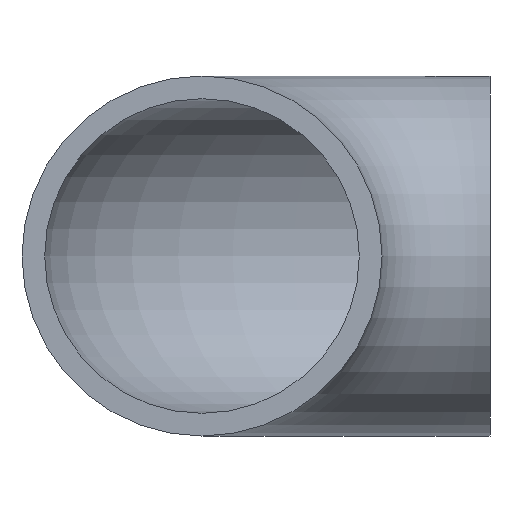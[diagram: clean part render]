
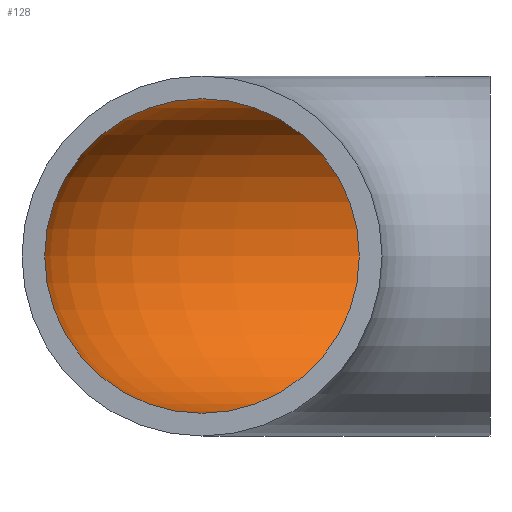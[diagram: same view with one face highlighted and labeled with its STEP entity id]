
A CAD part, front view. The second image highlights one B-rep face of the part: STEP entity #128.
In plain terms, the highlighted toroidal (fillet/blend) face has major radius 40 mm and minor radius 21.85 mm.
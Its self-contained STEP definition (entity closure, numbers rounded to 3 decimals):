
#12=TOROIDAL_SURFACE($,#146,40.,21.85);
#23=FACE_BOUND($,#58,.T.);
#36=CIRCLE($,#147,21.85);
#37=CIRCLE($,#148,21.85);
#45=FACE_OUTER_BOUND($,#57,.T.);
#57=EDGE_LOOP($,(#98));
#58=EDGE_LOOP($,(#99));
#75=VERTEX_POINT($,#257);
#76=VERTEX_POINT($,#259);
#85=EDGE_CURVE($,#75,#75,#36,.T.);
#86=EDGE_CURVE($,#76,#76,#37,.T.);
#98=ORIENTED_EDGE($,*,*,#85,.T.);
#99=ORIENTED_EDGE($,*,*,#86,.F.);
#128=ADVANCED_FACE($,(#45,#23),#12,.F.);
#146=AXIS2_PLACEMENT_3D($,#256,#177,#178);
#147=AXIS2_PLACEMENT_3D($,#258,#179,#180);
#148=AXIS2_PLACEMENT_3D($,#260,#181,#182);
#177=DIRECTION('center_axis',(0.,0.,-1.));
#178=DIRECTION('ref_axis',(-1.,0.,0.));
#179=DIRECTION('center_axis',(0.,-1.,0.));
#180=DIRECTION('ref_axis',(1.,0.,0.));
#181=DIRECTION('center_axis',(-1.,0.,0.));
#182=DIRECTION('ref_axis',(0.,1.,0.));
#256=CARTESIAN_POINT('Origin',(40.,140.,0.));
#257=CARTESIAN_POINT('',(-21.85,140.,0.));
#258=CARTESIAN_POINT('Origin',(0.,140.,0.));
#259=CARTESIAN_POINT('',(40.,201.85,0.));
#260=CARTESIAN_POINT('Origin',(40.,180.,0.));
